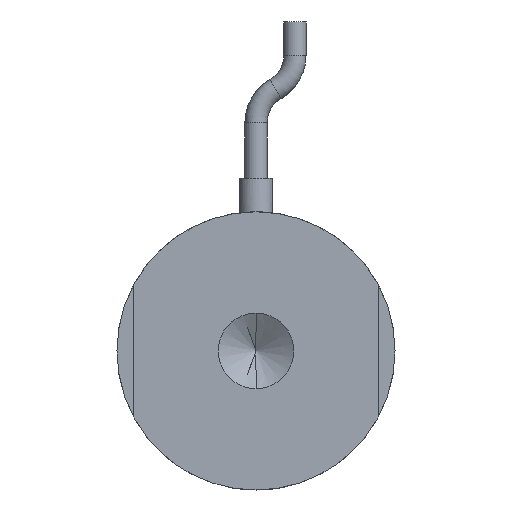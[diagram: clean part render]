
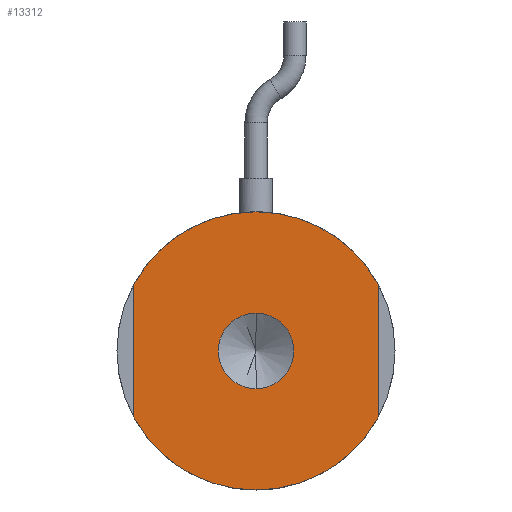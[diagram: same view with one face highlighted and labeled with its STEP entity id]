
A CAD part, front view. The second image highlights one B-rep face of the part: STEP entity #13312.
In plain terms, the highlighted planar face has unit normal (0, -1, 0).
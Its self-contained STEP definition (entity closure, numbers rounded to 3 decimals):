
#588 = EDGE_CURVE ( 'NONE', #31632, #42198, #43752, .T. ) ;
#612 = DIRECTION ( 'NONE',  ( 0., 0., 1. ) ) ;
#1304 = CARTESIAN_POINT ( 'NONE',  ( 0., 0., 0. ) ) ;
#2566 = ORIENTED_EDGE ( 'NONE', *, *, #43997, .F. ) ;
#2571 = ORIENTED_EDGE ( 'NONE', *, *, #16697, .F. ) ;
#2963 = AXIS2_PLACEMENT_3D ( 'NONE', #23192, #26701, #5947 ) ;
#3964 = CARTESIAN_POINT ( 'NONE',  ( -11., 0., 5.937 ) ) ;
#4198 = FACE_BOUND ( 'NONE', #43731, .T. ) ;
#4299 = VERTEX_POINT ( 'NONE', #3964 ) ;
#4712 = ORIENTED_EDGE ( 'NONE', *, *, #36131, .F. ) ;
#4742 = DIRECTION ( 'NONE',  ( 0., 0., 1. ) ) ;
#5308 = CARTESIAN_POINT ( 'NONE',  ( 0., 0., 3.4 ) ) ;
#5472 = CARTESIAN_POINT ( 'NONE',  ( 0., 0., 0. ) ) ;
#5947 = DIRECTION ( 'NONE',  ( 0., 0., 1. ) ) ;
#6602 = CIRCLE ( 'NONE', #25084, 12.5 ) ;
#7824 = DIRECTION ( 'NONE',  ( 0., 1., 0. ) ) ;
#8551 = LINE ( 'NONE', #15300, #35121 ) ;
#8769 = DIRECTION ( 'NONE',  ( 0., -1., 0. ) ) ;
#8967 = DIRECTION ( 'NONE',  ( 0., 0., 1. ) ) ;
#9601 = ORIENTED_EDGE ( 'NONE', *, *, #588, .F. ) ;
#10370 = CARTESIAN_POINT ( 'NONE',  ( 11., 0., 0. ) ) ;
#10634 = EDGE_CURVE ( 'NONE', #23747, #4299, #8551, .T. ) ;
#12787 = LINE ( 'NONE', #10370, #21986 ) ;
#13312 = ADVANCED_FACE ( 'NONE', ( #4198, #22627 ), #43968, .F. ) ;
#15300 = CARTESIAN_POINT ( 'NONE',  ( -11., 0., 0. ) ) ;
#15903 = CARTESIAN_POINT ( 'NONE',  ( 0., 0., 0. ) ) ;
#16045 = CIRCLE ( 'NONE', #24170, 3.4 ) ;
#16530 = CARTESIAN_POINT ( 'NONE',  ( 11., 0., -5.937 ) ) ;
#16697 = EDGE_CURVE ( 'NONE', #30775, #39412, #16045, .T. ) ;
#17030 = CIRCLE ( 'NONE', #31665, 12.5 ) ;
#18759 = ORIENTED_EDGE ( 'NONE', *, *, #10634, .F. ) ;
#18786 = CIRCLE ( 'NONE', #22617, 12.5 ) ;
#19382 = DIRECTION ( 'NONE',  ( 0., 0., -1. ) ) ;
#20786 = CARTESIAN_POINT ( 'NONE',  ( 0., 0., 12.5 ) ) ;
#20824 = CIRCLE ( 'NONE', #40396, 3.4 ) ;
#21317 = DIRECTION ( 'NONE',  ( 0., 1., 0. ) ) ;
#21986 = VECTOR ( 'NONE', #38100, 1000. ) ;
#22617 = AXIS2_PLACEMENT_3D ( 'NONE', #42106, #21317, #612 ) ;
#22627 = FACE_OUTER_BOUND ( 'NONE', #30102, .T. ) ;
#23192 = CARTESIAN_POINT ( 'NONE',  ( 0., 0., 0. ) ) ;
#23747 = VERTEX_POINT ( 'NONE', #44777 ) ;
#24170 = AXIS2_PLACEMENT_3D ( 'NONE', #15903, #40156, #19382 ) ;
#25026 = VERTEX_POINT ( 'NONE', #37635 ) ;
#25084 = AXIS2_PLACEMENT_3D ( 'NONE', #28572, #7824, #32064 ) ;
#25512 = DIRECTION ( 'NONE',  ( 0., 1., 0. ) ) ;
#26701 = DIRECTION ( 'NONE',  ( 0., 1., 0. ) ) ;
#28572 = CARTESIAN_POINT ( 'NONE',  ( 0., 0., 0. ) ) ;
#29512 = CARTESIAN_POINT ( 'NONE',  ( 0., 0., 0. ) ) ;
#29701 = DIRECTION ( 'NONE',  ( 0., 1., 0. ) ) ;
#30102 = EDGE_LOOP ( 'NONE', ( #18759, #39378, #36673, #38861, #9601, #2566 ) ) ;
#30775 = VERTEX_POINT ( 'NONE', #43790 ) ;
#31632 = VERTEX_POINT ( 'NONE', #20786 ) ;
#31665 = AXIS2_PLACEMENT_3D ( 'NONE', #5472, #29701, #8967 ) ;
#32064 = DIRECTION ( 'NONE',  ( 0., 0., 1. ) ) ;
#32247 = EDGE_CURVE ( 'NONE', #39584, #25026, #18786, .T. ) ;
#32579 = DIRECTION ( 'NONE',  ( 0., 0., 1. ) ) ;
#33027 = DIRECTION ( 'NONE',  ( 0., 0., -1. ) ) ;
#33792 = EDGE_CURVE ( 'NONE', #42198, #39584, #12787, .T. ) ;
#34705 = AXIS2_PLACEMENT_3D ( 'NONE', #1304, #25512, #4742 ) ;
#35121 = VECTOR ( 'NONE', #32579, 1000. ) ;
#36131 = EDGE_CURVE ( 'NONE', #39412, #30775, #20824, .T. ) ;
#36673 = ORIENTED_EDGE ( 'NONE', *, *, #32247, .F. ) ;
#36847 = CARTESIAN_POINT ( 'NONE',  ( 11., 0., 5.937 ) ) ;
#37192 = EDGE_CURVE ( 'NONE', #25026, #23747, #17030, .T. ) ;
#37635 = CARTESIAN_POINT ( 'NONE',  ( 0., 0., -12.5 ) ) ;
#38100 = DIRECTION ( 'NONE',  ( 0., 0., -1. ) ) ;
#38861 = ORIENTED_EDGE ( 'NONE', *, *, #33792, .F. ) ;
#39378 = ORIENTED_EDGE ( 'NONE', *, *, #37192, .F. ) ;
#39412 = VERTEX_POINT ( 'NONE', #5308 ) ;
#39584 = VERTEX_POINT ( 'NONE', #16530 ) ;
#40156 = DIRECTION ( 'NONE',  ( 0., -1., 0. ) ) ;
#40396 = AXIS2_PLACEMENT_3D ( 'NONE', #29512, #8769, #33027 ) ;
#42106 = CARTESIAN_POINT ( 'NONE',  ( 0., 0., 0. ) ) ;
#42198 = VERTEX_POINT ( 'NONE', #36847 ) ;
#43731 = EDGE_LOOP ( 'NONE', ( #2571, #4712 ) ) ;
#43752 = CIRCLE ( 'NONE', #34705, 12.5 ) ;
#43790 = CARTESIAN_POINT ( 'NONE',  ( 0., 0., -3.4 ) ) ;
#43968 = PLANE ( 'NONE',  #2963 ) ;
#43997 = EDGE_CURVE ( 'NONE', #4299, #31632, #6602, .T. ) ;
#44777 = CARTESIAN_POINT ( 'NONE',  ( -11., 0., -5.937 ) ) ;
